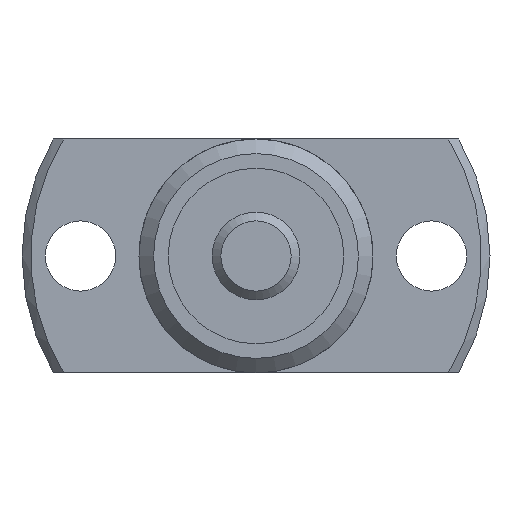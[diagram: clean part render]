
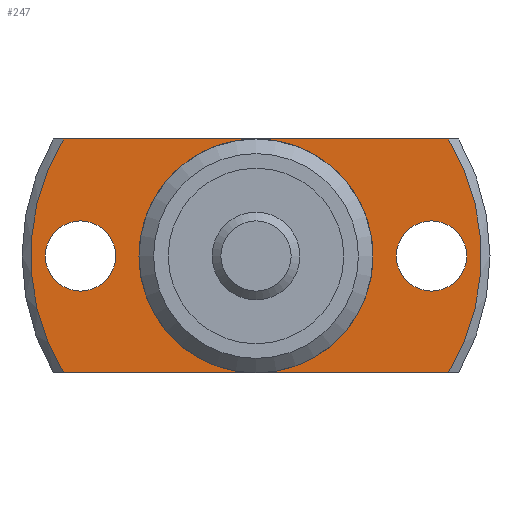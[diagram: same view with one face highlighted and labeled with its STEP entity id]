
A CAD part, left-side view. The second image highlights one B-rep face of the part: STEP entity #247.
In plain terms, the highlighted planar face has unit normal (-1, 0, 0).
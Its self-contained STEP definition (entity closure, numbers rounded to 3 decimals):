
#247 = ADVANCED_FACE( '', ( #506, #507, #508, #509 ), #510, .F. );
#506 = FACE_OUTER_BOUND( '', #758, .T. );
#507 = FACE_BOUND( '', #759, .T. );
#508 = FACE_BOUND( '', #760, .T. );
#509 = FACE_BOUND( '', #761, .T. );
#510 = PLANE( '', #762 );
#758 = EDGE_LOOP( '', ( #1250, #1251, #1252, #1253 ) );
#759 = EDGE_LOOP( '', ( #1254 ) );
#760 = EDGE_LOOP( '', ( #1255 ) );
#761 = EDGE_LOOP( '', ( #1256 ) );
#762 = AXIS2_PLACEMENT_3D( '', #1257, #1258, #1259 );
#1250 = ORIENTED_EDGE( '', *, *, #1450, .F. );
#1251 = ORIENTED_EDGE( '', *, *, #1524, .T. );
#1252 = ORIENTED_EDGE( '', *, *, #1527, .F. );
#1253 = ORIENTED_EDGE( '', *, *, #1528, .T. );
#1254 = ORIENTED_EDGE( '', *, *, #1480, .T. );
#1255 = ORIENTED_EDGE( '', *, *, #1391, .T. );
#1256 = ORIENTED_EDGE( '', *, *, #1397, .T. );
#1257 = CARTESIAN_POINT( '', ( 8., 3.75, 0. ) );
#1258 = DIRECTION( '', ( 1., 0., 0. ) );
#1259 = DIRECTION( '', ( 0., 0., -1. ) );
#1391 = EDGE_CURVE( '', #1635, #1635, #1636, .T. );
#1397 = EDGE_CURVE( '', #1645, #1645, #1646, .T. );
#1450 = EDGE_CURVE( '', #1728, #1729, #1730, .T. );
#1480 = EDGE_CURVE( '', #1773, #1773, #1774, .T. );
#1524 = EDGE_CURVE( '', #1728, #1826, #1828, .T. );
#1527 = EDGE_CURVE( '', #1831, #1826, #1832, .T. );
#1528 = EDGE_CURVE( '', #1831, #1729, #1833, .T. );
#1635 = VERTEX_POINT( '', #1975 );
#1636 = CIRCLE( '', #1976, 1.2 );
#1645 = VERTEX_POINT( '', #1985 );
#1646 = CIRCLE( '', #1986, 3.75 );
#1728 = VERTEX_POINT( '', #2097 );
#1729 = VERTEX_POINT( '', #2098 );
#1730 = CIRCLE( '', #2099, 7.7 );
#1773 = VERTEX_POINT( '', #2163 );
#1774 = CIRCLE( '', #2164, 1.2 );
#1826 = VERTEX_POINT( '', #2229 );
#1828 = LINE( '', #2234, #2235 );
#1831 = VERTEX_POINT( '', #2239 );
#1832 = CIRCLE( '', #2240, 7.7 );
#1833 = LINE( '', #2241, #2242 );
#1975 = CARTESIAN_POINT( '', ( 8., -6., -1.2 ) );
#1976 = AXIS2_PLACEMENT_3D( '', #2338, #2339, #2340 );
#1985 = CARTESIAN_POINT( '', ( 8., 0., -3.75 ) );
#1986 = AXIS2_PLACEMENT_3D( '', #2350, #2351, #2352 );
#2097 = CARTESIAN_POINT( '', ( 8., 6.58, -4. ) );
#2098 = CARTESIAN_POINT( '', ( 8., 6.58, 4. ) );
#2099 = AXIS2_PLACEMENT_3D( '', #2424, #2425, #2426 );
#2163 = CARTESIAN_POINT( '', ( 8., 6., -1.2 ) );
#2164 = AXIS2_PLACEMENT_3D( '', #2454, #2455, #2456 );
#2229 = CARTESIAN_POINT( '', ( 8., -6.58, -4. ) );
#2234 = CARTESIAN_POINT( '', ( 8., 3.75, -4. ) );
#2235 = VECTOR( '', #2506, 1000. );
#2239 = CARTESIAN_POINT( '', ( 8., -6.58, 4. ) );
#2240 = AXIS2_PLACEMENT_3D( '', #2508, #2509, #2510 );
#2241 = CARTESIAN_POINT( '', ( 8., 3.75, 4. ) );
#2242 = VECTOR( '', #2511, 1000. );
#2338 = CARTESIAN_POINT( '', ( 8., -6., 0. ) );
#2339 = DIRECTION( '', ( 1., 0., 0. ) );
#2340 = DIRECTION( '', ( 0., 0., -1. ) );
#2350 = CARTESIAN_POINT( '', ( 8., 0., 0. ) );
#2351 = DIRECTION( '', ( 1., 0., 0. ) );
#2352 = DIRECTION( '', ( 0., 0., -1. ) );
#2424 = CARTESIAN_POINT( '', ( 8., 0., 0. ) );
#2425 = DIRECTION( '', ( 1., 0., 0. ) );
#2426 = DIRECTION( '', ( 0., 0., -1. ) );
#2454 = CARTESIAN_POINT( '', ( 8., 6., 0. ) );
#2455 = DIRECTION( '', ( 1., 0., 0. ) );
#2456 = DIRECTION( '', ( 0., 0., -1. ) );
#2506 = DIRECTION( '', ( 0., -1., 0. ) );
#2508 = CARTESIAN_POINT( '', ( 8., 0., 0. ) );
#2509 = DIRECTION( '', ( 1., 0., 0. ) );
#2510 = DIRECTION( '', ( 0., 0., -1. ) );
#2511 = DIRECTION( '', ( 0., 1., 0. ) );
